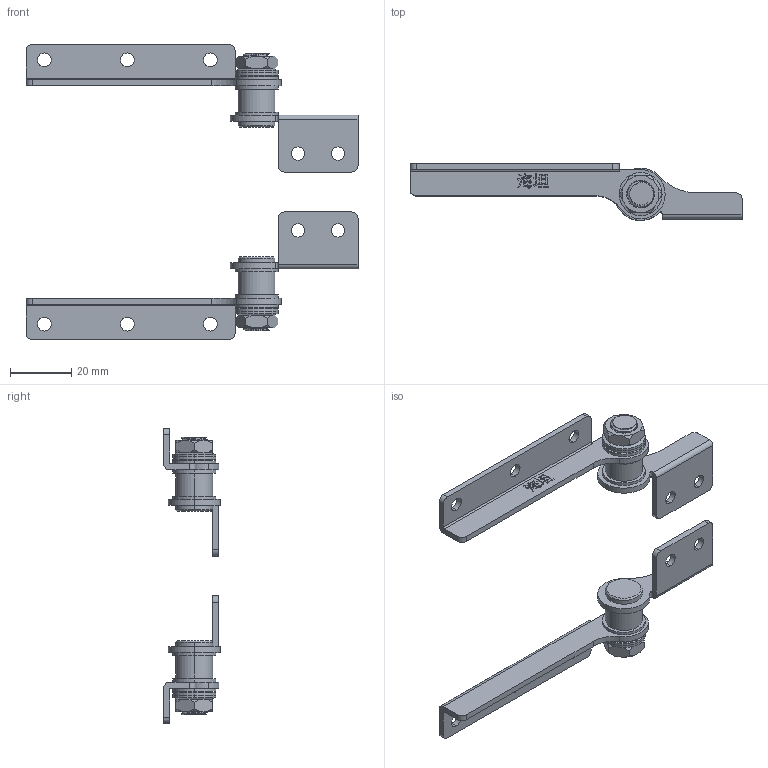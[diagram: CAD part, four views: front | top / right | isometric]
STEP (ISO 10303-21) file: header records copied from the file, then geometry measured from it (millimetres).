
FILE_DESCRIPTION (( 'STEP AP214' ), '1' );
FILE_NAME ('DP.STEP', '2023-03-31T02:54:38', ( 'Windows 蚚誧' ), ( '' ), 'SwSTEP 2.0', 'SolidWorks 2019', '' );
FILE_SCHEMA (( 'AUTOMOTIVE_DESIGN' ));
Length unit declared in the file: millimetre
Products named in the file (3): M8蹟譫; DP; 錨璃2
Assembly tree (3 placements, depth 2):
  DP
    錨璃2
    M8蹟譫  x2
Bounding box: 108 x 18.49 x 96 mm (x, y, z)
Volume: 14382.3 mm3; surface area: 18175.1 mm2
Topology: 20 solids, 20 shells, 458 faces, 1181 edges, 778 vertices
Faces by surface type: cylinder 206, plane 158, bspline 74, cone 20
Entity records: 21339 total; most frequent: CARTESIAN_POINT 11480, ORIENTED_EDGE 2154, DIRECTION 1739, EDGE_CURVE 1077, VERTEX_POINT 710, AXIS2_PLACEMENT_3D 611, LINE 517, VECTOR 517
